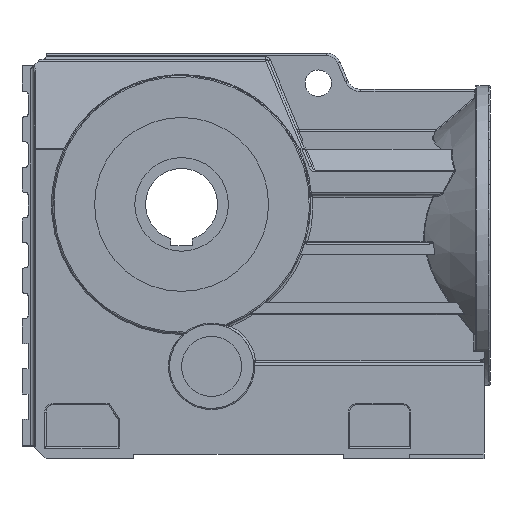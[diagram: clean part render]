
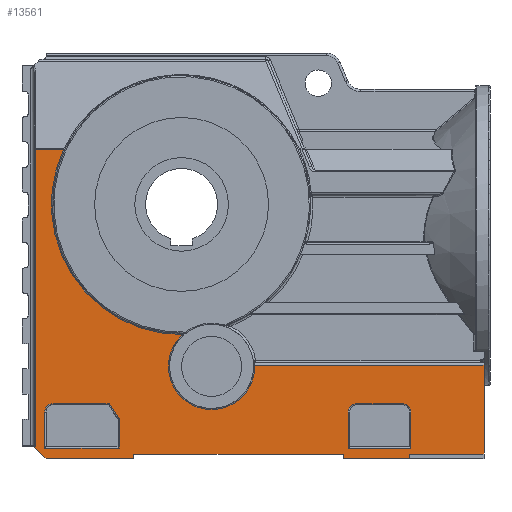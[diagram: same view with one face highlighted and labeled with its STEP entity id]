
A CAD part, front view. The second image highlights one B-rep face of the part: STEP entity #13561.
In plain terms, the highlighted planar face has unit normal (0, -1, 0).
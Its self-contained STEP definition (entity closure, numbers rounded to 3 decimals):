
#7273=CARTESIAN_POINT('',(-181.5,-85.0,257.754));
#7274=VERTEX_POINT('',#7273);
#7307=CARTESIAN_POINT('',(-181.5,-85.0,9.));
#7308=VERTEX_POINT('',#7307);
#7316=CARTESIAN_POINT('',(-181.5,-85.0,9.));
#7317=DIRECTION('',(0.0,0.0,1.0));
#7318=VECTOR('',#7317,248.754);
#7319=LINE('',#7316,#7318);
#7320=EDGE_CURVE('',#7308,#7274,#7319,.T.);
#8088=CARTESIAN_POINT('',(192.5,-85.0,78.0));
#8089=VERTEX_POINT('',#8088);
#8097=CARTESIAN_POINT('',(192.5,-85.0,4.0));
#8098=VERTEX_POINT('',#8097);
#8099=CARTESIAN_POINT('',(192.5,-85.0,4.0));
#8100=DIRECTION('',(0.0,0.0,1.0));
#8101=VECTOR('',#8100,74.0);
#8102=LINE('',#8099,#8101);
#8103=EDGE_CURVE('',#8098,#8089,#8102,.T.);
#12929=CARTESIAN_POINT('',(1.486,-85.0,78.0));
#12930=VERTEX_POINT('',#12929);
#12947=CARTESIAN_POINT('',(-58.865,-85.0,103.502));
#12948=VERTEX_POINT('',#12947);
#12956=CARTESIAN_POINT('',(-34.5,-85.0,77.));
#12957=DIRECTION('',(0.0,-1.,0.0));
#12958=DIRECTION('',(-0.404,0.0,-0.915));
#12959=AXIS2_PLACEMENT_3D('',#12956,#12957,#12958);
#12960=CIRCLE('',#12959,36.0);
#12961=EDGE_CURVE('',#12948,#12930,#12960,.T.);
#13359=CARTESIAN_POINT('',(1.486,-85.0,78.0));
#13360=DIRECTION('',(1.0,0.0,0.0));
#13361=VECTOR('',#13360,191.014);
#13362=LINE('',#13359,#13361);
#13363=EDGE_CURVE('',#12930,#8089,#13362,.T.);
#13370=CARTESIAN_POINT('',(192.5,-85.0,0.0));
#13371=DIRECTION('',(0.0,-1.0,0.0));
#13372=DIRECTION('',(0.0,0.0,-1.0));
#13373=AXIS2_PLACEMENT_3D('',#13370,#13371,#13372);
#13374=PLANE('',#13373);
#13375=ORIENTED_EDGE('',*,*,#7320,.F.);
#13376=CARTESIAN_POINT('',(-172.5,-85.0,0.0));
#13377=VERTEX_POINT('',#13376);
#13378=CARTESIAN_POINT('',(-172.5,-85.0,0.));
#13379=DIRECTION('',(-0.707,0.0,0.707));
#13380=VECTOR('',#13379,12.728);
#13381=LINE('',#13378,#13380);
#13382=EDGE_CURVE('',#13377,#7308,#13381,.T.);
#13383=ORIENTED_EDGE('',*,*,#13382,.F.);
#13384=CARTESIAN_POINT('',(-99.5,-85.0,0.0));
#13385=VERTEX_POINT('',#13384);
#13386=CARTESIAN_POINT('',(-172.5,-85.0,0.0));
#13387=DIRECTION('',(1.0,0.0,0.0));
#13388=VECTOR('',#13387,73.);
#13389=LINE('',#13386,#13388);
#13390=EDGE_CURVE('',#13377,#13385,#13389,.T.);
#13391=ORIENTED_EDGE('',*,*,#13390,.T.);
#13392=CARTESIAN_POINT('',(-99.5,-85.0,4.0));
#13393=VERTEX_POINT('',#13392);
#13394=CARTESIAN_POINT('',(-99.5,-85.0,0.0));
#13395=DIRECTION('',(0.0,0.0,1.0));
#13396=VECTOR('',#13395,4.0);
#13397=LINE('',#13394,#13396);
#13398=EDGE_CURVE('',#13385,#13393,#13397,.T.);
#13399=ORIENTED_EDGE('',*,*,#13398,.T.);
#13400=CARTESIAN_POINT('',(75.5,-85.0,4.0));
#13401=VERTEX_POINT('',#13400);
#13402=CARTESIAN_POINT('',(-99.5,-85.0,4.0));
#13403=DIRECTION('',(1.0,0.0,0.0));
#13404=VECTOR('',#13403,175.0);
#13405=LINE('',#13402,#13404);
#13406=EDGE_CURVE('',#13393,#13401,#13405,.T.);
#13407=ORIENTED_EDGE('',*,*,#13406,.T.);
#13408=CARTESIAN_POINT('',(75.5,-85.0,0.0));
#13409=VERTEX_POINT('',#13408);
#13410=CARTESIAN_POINT('',(75.5,-85.0,4.0));
#13411=DIRECTION('',(0.0,0.0,-1.0));
#13412=VECTOR('',#13411,4.0);
#13413=LINE('',#13410,#13412);
#13414=EDGE_CURVE('',#13401,#13409,#13413,.T.);
#13415=ORIENTED_EDGE('',*,*,#13414,.T.);
#13416=CARTESIAN_POINT('',(130.5,-85.0,0.0));
#13417=VERTEX_POINT('',#13416);
#13418=CARTESIAN_POINT('',(75.5,-85.0,0.0));
#13419=DIRECTION('',(1.0,0.0,0.0));
#13420=VECTOR('',#13419,55.0);
#13421=LINE('',#13418,#13420);
#13422=EDGE_CURVE('',#13409,#13417,#13421,.T.);
#13423=ORIENTED_EDGE('',*,*,#13422,.T.);
#13424=CARTESIAN_POINT('',(130.5,-85.0,4.0));
#13425=VERTEX_POINT('',#13424);
#13426=CARTESIAN_POINT('',(130.5,-85.0,0.0));
#13427=DIRECTION('',(0.0,0.0,1.0));
#13428=VECTOR('',#13427,4.0);
#13429=LINE('',#13426,#13428);
#13430=EDGE_CURVE('',#13417,#13425,#13429,.T.);
#13431=ORIENTED_EDGE('',*,*,#13430,.T.);
#13432=CARTESIAN_POINT('',(130.5,-85.0,4.0));
#13433=DIRECTION('',(1.0,0.0,0.0));
#13434=VECTOR('',#13433,62.);
#13435=LINE('',#13432,#13434);
#13436=EDGE_CURVE('',#13425,#8098,#13435,.T.);
#13437=ORIENTED_EDGE('',*,*,#13436,.T.);
#13438=ORIENTED_EDGE('',*,*,#8103,.T.);
#13439=ORIENTED_EDGE('',*,*,#13363,.F.);
#13440=ORIENTED_EDGE('',*,*,#12961,.F.);
#13441=CARTESIAN_POINT('',(-157.881,-85.0,257.754));
#13442=VERTEX_POINT('',#13441);
#13443=CARTESIAN_POINT('',(-59.5,-85.0,212.));
#13444=DIRECTION('',(0.0,-1.0,0.0));
#13445=DIRECTION('',(-0.836,0.0,-0.549));
#13446=AXIS2_PLACEMENT_3D('',#13443,#13444,#13445);
#13447=CIRCLE('',#13446,108.5);
#13448=EDGE_CURVE('',#13442,#12948,#13447,.T.);
#13449=ORIENTED_EDGE('',*,*,#13448,.F.);
#13450=CARTESIAN_POINT('',(-181.5,-85.0,257.754));
#13451=DIRECTION('',(1.0,0.0,0.0));
#13452=VECTOR('',#13451,23.619);
#13453=LINE('',#13450,#13452);
#13454=EDGE_CURVE('',#7274,#13442,#13453,.T.);
#13455=ORIENTED_EDGE('',*,*,#13454,.F.);
#13456=EDGE_LOOP('',(#13375,#13383,#13391,#13399,#13407,#13415,#13423,#13431,#13437,#13438,#13439,#13440,#13449,#13455));
#13457=FACE_OUTER_BOUND('',#13456,.T.);
#13458=CARTESIAN_POINT('',(-111.5,-85.0,9.0));
#13459=VERTEX_POINT('',#13458);
#13460=CARTESIAN_POINT('',(-111.5,-85.0,33.303));
#13461=VERTEX_POINT('',#13460);
#13462=CARTESIAN_POINT('',(-111.5,-85.0,9.0));
#13463=DIRECTION('',(0.0,0.0,1.0));
#13464=VECTOR('',#13463,24.303);
#13465=LINE('',#13462,#13464);
#13466=EDGE_CURVE('',#13459,#13461,#13465,.T.);
#13467=ORIENTED_EDGE('',*,*,#13466,.F.);
#13468=CARTESIAN_POINT('',(-173.5,-85.0,9.0));
#13469=VERTEX_POINT('',#13468);
#13470=CARTESIAN_POINT('',(-173.5,-85.0,9.0));
#13471=DIRECTION('',(1.0,0.0,0.0));
#13472=VECTOR('',#13471,62.);
#13473=LINE('',#13470,#13472);
#13474=EDGE_CURVE('',#13469,#13459,#13473,.T.);
#13475=ORIENTED_EDGE('',*,*,#13474,.F.);
#13476=CARTESIAN_POINT('',(-173.5,-85.0,39.));
#13477=VERTEX_POINT('',#13476);
#13478=CARTESIAN_POINT('',(-173.5,-85.0,39.));
#13479=DIRECTION('',(0.0,0.0,-1.0));
#13480=VECTOR('',#13479,30.);
#13481=LINE('',#13478,#13480);
#13482=EDGE_CURVE('',#13477,#13469,#13481,.T.);
#13483=ORIENTED_EDGE('',*,*,#13482,.F.);
#13484=CARTESIAN_POINT('',(-166.5,-85.0,46.));
#13485=VERTEX_POINT('',#13484);
#13486=CARTESIAN_POINT('',(-166.5,-85.0,39.));
#13487=DIRECTION('',(0.0,-1.0,0.0));
#13488=DIRECTION('',(-0.707,0.0,0.707));
#13489=AXIS2_PLACEMENT_3D('',#13486,#13487,#13488);
#13490=CIRCLE('',#13489,7.);
#13491=EDGE_CURVE('',#13485,#13477,#13490,.T.);
#13492=ORIENTED_EDGE('',*,*,#13491,.F.);
#13493=CARTESIAN_POINT('',(-119.965,-85.0,46.0));
#13494=VERTEX_POINT('',#13493);
#13495=CARTESIAN_POINT('',(-119.965,-85.0,46.0));
#13496=DIRECTION('',(-1.0,0.0,0.0));
#13497=VECTOR('',#13496,46.535);
#13498=LINE('',#13495,#13497);
#13499=EDGE_CURVE('',#13494,#13485,#13498,.T.);
#13500=ORIENTED_EDGE('',*,*,#13499,.F.);
#13501=CARTESIAN_POINT('',(-111.5,-85.0,33.303));
#13502=DIRECTION('',(-0.555,0.0,0.832));
#13503=VECTOR('',#13502,15.26);
#13504=LINE('',#13501,#13503);
#13505=EDGE_CURVE('',#13461,#13494,#13504,.T.);
#13506=ORIENTED_EDGE('',*,*,#13505,.F.);
#13507=EDGE_LOOP('',(#13467,#13475,#13483,#13492,#13500,#13506));
#13508=FACE_BOUND('',#13507,.T.);
#13509=CARTESIAN_POINT('',(131.5,-85.0,9.0));
#13510=VERTEX_POINT('',#13509);
#13511=CARTESIAN_POINT('',(131.5,-85.0,39.));
#13512=VERTEX_POINT('',#13511);
#13513=CARTESIAN_POINT('',(131.5,-85.0,9.0));
#13514=DIRECTION('',(0.0,0.0,1.0));
#13515=VECTOR('',#13514,30.);
#13516=LINE('',#13513,#13515);
#13517=EDGE_CURVE('',#13510,#13512,#13516,.T.);
#13518=ORIENTED_EDGE('',*,*,#13517,.F.);
#13519=CARTESIAN_POINT('',(79.5,-85.0,9.0));
#13520=VERTEX_POINT('',#13519);
#13521=CARTESIAN_POINT('',(79.5,-85.0,9.0));
#13522=DIRECTION('',(1.0,0.0,0.0));
#13523=VECTOR('',#13522,52.0);
#13524=LINE('',#13521,#13523);
#13525=EDGE_CURVE('',#13520,#13510,#13524,.T.);
#13526=ORIENTED_EDGE('',*,*,#13525,.F.);
#13527=CARTESIAN_POINT('',(79.5,-85.0,39.));
#13528=VERTEX_POINT('',#13527);
#13529=CARTESIAN_POINT('',(79.5,-85.0,39.));
#13530=DIRECTION('',(0.0,0.0,-1.0));
#13531=VECTOR('',#13530,30.);
#13532=LINE('',#13529,#13531);
#13533=EDGE_CURVE('',#13528,#13520,#13532,.T.);
#13534=ORIENTED_EDGE('',*,*,#13533,.F.);
#13535=CARTESIAN_POINT('',(86.5,-85.0,46.0));
#13536=VERTEX_POINT('',#13535);
#13537=CARTESIAN_POINT('',(86.5,-85.0,39.));
#13538=DIRECTION('',(0.0,-1.,0.0));
#13539=DIRECTION('',(-0.707,0.0,0.707));
#13540=AXIS2_PLACEMENT_3D('',#13537,#13538,#13539);
#13541=CIRCLE('',#13540,7.);
#13542=EDGE_CURVE('',#13536,#13528,#13541,.T.);
#13543=ORIENTED_EDGE('',*,*,#13542,.F.);
#13544=CARTESIAN_POINT('',(124.5,-85.0,46.));
#13545=VERTEX_POINT('',#13544);
#13546=CARTESIAN_POINT('',(124.5,-85.0,46.0));
#13547=DIRECTION('',(-1.0,0.0,0.0));
#13548=VECTOR('',#13547,38.);
#13549=LINE('',#13546,#13548);
#13550=EDGE_CURVE('',#13545,#13536,#13549,.T.);
#13551=ORIENTED_EDGE('',*,*,#13550,.F.);
#13552=CARTESIAN_POINT('',(124.5,-85.0,39.));
#13553=DIRECTION('',(0.0,-1.,0.0));
#13554=DIRECTION('',(0.707,0.0,0.707));
#13555=AXIS2_PLACEMENT_3D('',#13552,#13553,#13554);
#13556=CIRCLE('',#13555,7.);
#13557=EDGE_CURVE('',#13512,#13545,#13556,.T.);
#13558=ORIENTED_EDGE('',*,*,#13557,.F.);
#13559=EDGE_LOOP('',(#13518,#13526,#13534,#13543,#13551,#13558));
#13560=FACE_BOUND('',#13559,.T.);
#13561=ADVANCED_FACE('',(#13457,#13508,#13560),#13374,.T.);
